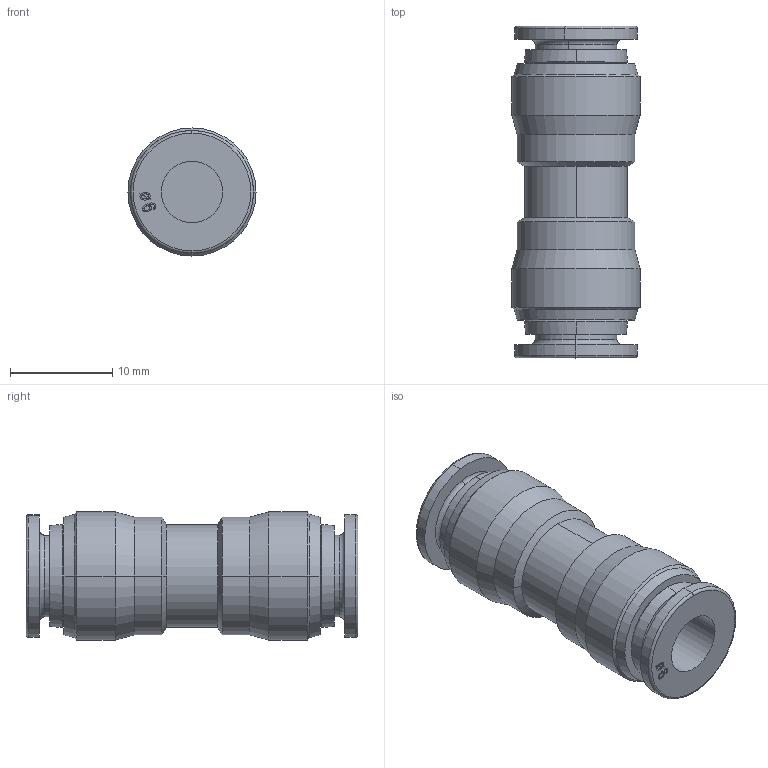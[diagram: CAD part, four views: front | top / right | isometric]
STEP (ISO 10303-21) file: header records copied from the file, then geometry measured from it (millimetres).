
FILE_DESCRIPTION (( 'STEP AP214' ), '1' );
FILE_NAME ('5904000003A.STEP', '2020-06-18T09:25:35', ( 'admin' ), ( '' ), 'SwSTEP 2.0', 'SolidWorks 2016', '' );
FILE_SCHEMA (( 'AUTOMOTIVE_DESIGN' ));
Length unit declared in the file: millimetre
Products named in the file (1): 5904000003A
Bounding box: 12.5 x 32.4 x 12.5 mm (x, y, z)
Volume: 2417 mm3; surface area: 2212.3 mm2
Topology: 1 solids, 1 shells, 148 faces, 352 edges, 224 vertices
Faces by surface type: bspline 56, plane 38, cone 24, cylinder 22, torus 8
Entity records: 6782 total; most frequent: CARTESIAN_POINT 3641, ORIENTED_EDGE 704, DIRECTION 510, EDGE_CURVE 352, VERTEX_POINT 224, AXIS2_PLACEMENT_3D 177, EDGE_LOOP 166, LINE 156
